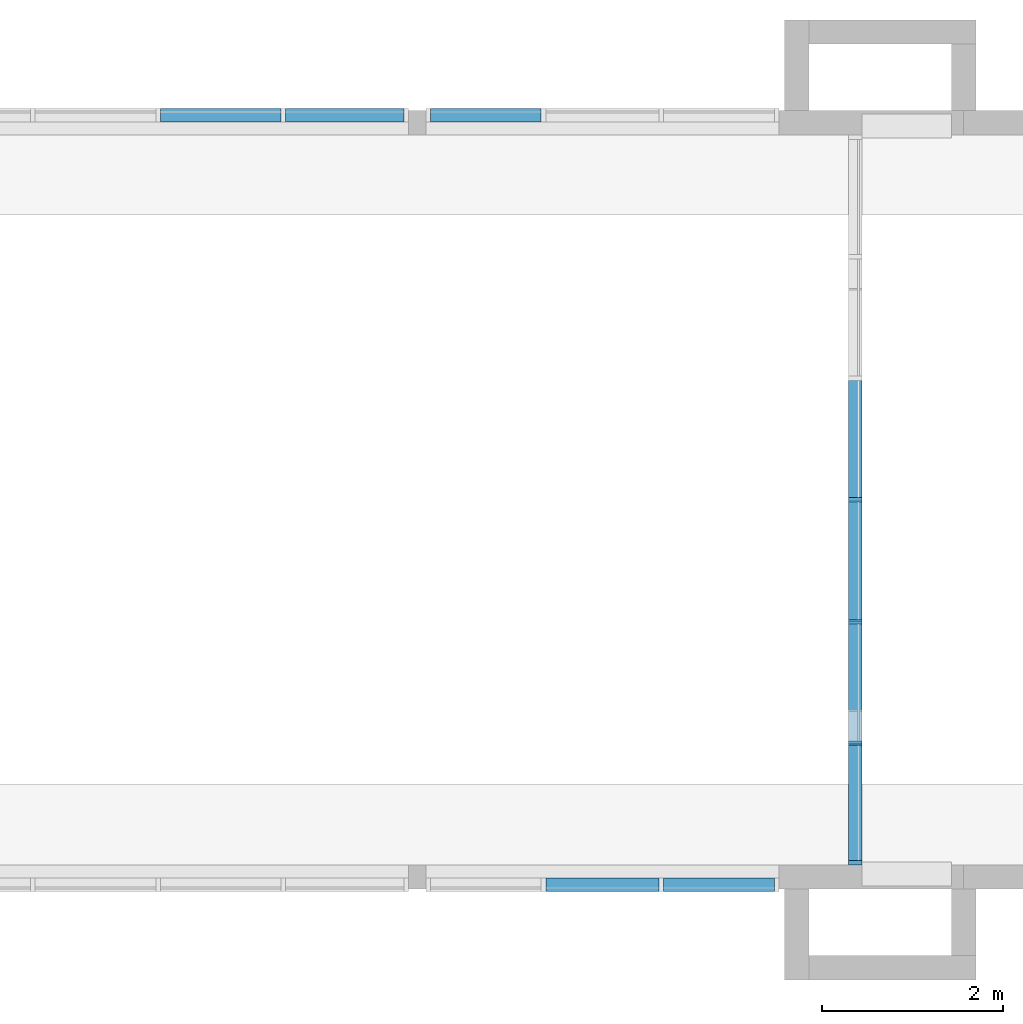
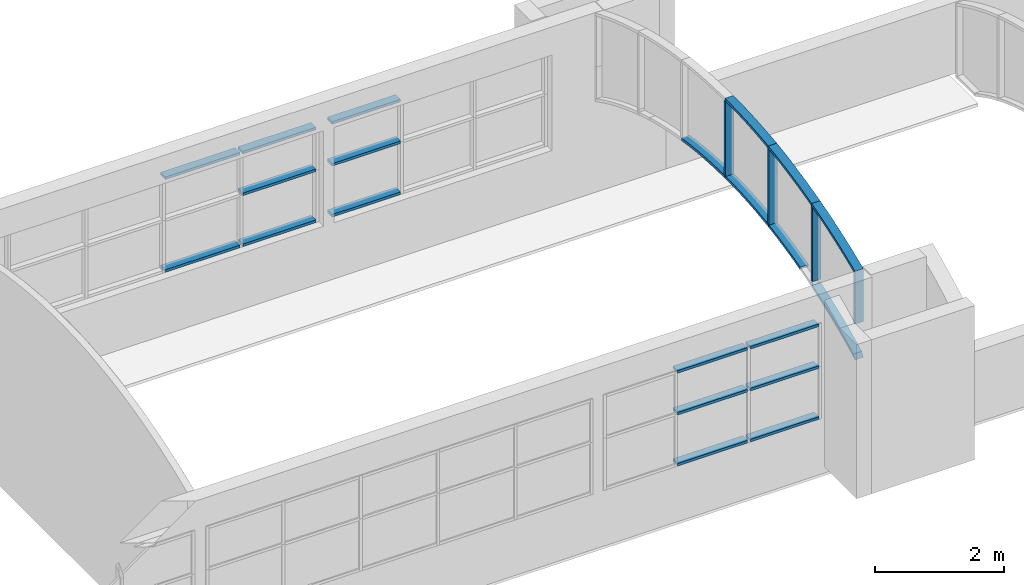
# One storey, part 3 of 14: 25 members, 4 elements without a shape of their own.
"""IFC2X3 building model written with IfcOpenShell, lengths in metres."""

from ifc_helpers import new_model, entity, si_unit, converted_unit, frame, frame_2d, origin, origin_2d_with_axis, place, context, project, spatial, polyline, circle_curve, parameter, trimmed, segment, composite_curve, rectangle, outline, extrude, source, transform, mapped, material, type_object, type_shapes, element, aggregate, save


model = new_model("IFC2X3")

# Units and contexts
model_context = context("Model", 3, precision=1e-09, world=origin())
plan_context = context("Plan", 3, precision=1e-09, world=origin())
ifc_project = project(units=[si_unit("LENGTHUNIT", "METRE"), si_unit("AREAUNIT", "SQUARE_METRE"), si_unit("VOLUMEUNIT", "CUBIC_METRE"), converted_unit("PLANEANGLEUNIT", "DEGREE", entity("IfcRatioMeasure", 0.01745329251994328), si_unit("PLANEANGLEUNIT", "RADIAN"), dimensions=[0, 0, 0, 0, 0, 0, 0]), si_unit("TIMEUNIT", "SECOND")], contexts=[model_context, plan_context])

# Site, building, storey
site_placement = place(None, origin())
site = spatial("IfcSite", under=ifc_project, at=site_placement, Name="Default", CompositionType="ELEMENT")
building_placement = place(site_placement, origin())
building = spatial("IfcBuilding", under=site, at=building_placement, CompositionType="ELEMENT")
storey_placement = place(building_placement, frame((0.0, 0.0, 9.25000000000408)))
storey = spatial("IfcBuildingStorey", under=building, at=storey_placement, Name="Roof - Main", CompositionType="ELEMENT", Elevation=9.25000000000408)

# Curtain wall, members
curtain_wall_1_placement = place(storey_placement, origin())
curtain_wall_1 = element("IfcCurtainWall", 1, at=curtain_wall_1_placement, inside=storey, Name="Curtain Wall:Storefront", ObjectType="Curtain Wall:Storefront")
ifc_material = material(Name="Metal - Aluminium")
member_type_1 = type_object("IfcMemberType", Name="50 x 150mm", PredefinedType="MULLION")
shared_shape_1 = source(origin(), model_context, "Body", "SweptSolid", [
    extrude(rectangle(XDim=0.05, YDim=0.15, at=origin_2d_with_axis()), frame((-0.025, 0.0, -1.330999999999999), z_axis=(0.0, 0.0, 1.0), x_axis=(-1.0, 0.0, 0.0)), (0.0, 0.0, 1.0), 1.330999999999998),
])
type_shapes(member_type_1, [shared_shape_1])
member_1_placement = place(storey_placement, frame((-29.27600000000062, 35.93490399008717, 1.067), z_axis=(-1.0, 0.0, 0.0), x_axis=(0.0, 0.0, -1.0)))
member_1 = element("IfcMember", 2, at=member_1_placement, type_object=member_type_1, material=ifc_material, Name="Rectangular Mullion:50 x 150mm:50 x 150mm", ObjectType="50 x 150mm", context=model_context, shape_type="MappedRepresentation", body=[
    mapped(shared_shape_1, transform((0.0, 0.0, 0.0), scale=1.0)),
])
member_type_2 = type_object("IfcMemberType", Name="50 x 150mm", PredefinedType="MULLION")
type_shapes(member_type_2, [shared_shape_1])
member_2_placement = place(storey_placement, frame((-27.94500000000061, 35.93490399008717, 2.867), z_axis=(1.0, 0.0, 0.0), x_axis=(0.0, 0.0, 1.0)))
member_2 = element("IfcMember", 3, at=member_2_placement, type_object=member_type_2, material=ifc_material, Name="Rectangular Mullion:50 x 150mm:50 x 150mm", ObjectType="50 x 150mm", context=model_context, shape_type="MappedRepresentation", body=[
    mapped(shared_shape_1, transform((0.0, 0.0, 0.0), scale=1.0)),
])

# Curtain wall, member
curtain_wall_2_placement = place(storey_placement, origin())
curtain_wall_2 = element("IfcCurtainWall", 4, at=curtain_wall_2_placement, inside=storey, Name="Curtain Wall:Storefront", ObjectType="Curtain Wall:Storefront")
member_type_3 = type_object("IfcMemberType", Name="50 x 150mm", PredefinedType="MULLION")
shared_shape_2 = source(origin(), model_context, "Body", "SweptSolid", [
    extrude(rectangle(XDim=0.05, YDim=0.15, at=origin_2d_with_axis()), frame((0.0, 0.0, -1.221666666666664), z_axis=(0.0, 0.0, 1.0), x_axis=(-1.0, 0.0, 0.0)), (0.0, 0.0, 1.0), 1.221666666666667),
])
type_shapes(member_type_3, [shared_shape_2])
member_3_placement = place(storey_placement, frame((-22.51, 27.45559600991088, 2.053894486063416), z_axis=(1.0, 0.0, 0.0), x_axis=(0.0, 0.0, 1.0)))
member_3 = element("IfcMember", 5, at=member_3_placement, type_object=member_type_3, material=ifc_material, Name="Rectangular Mullion:50 x 150mm:50 x 150mm", ObjectType="50 x 150mm", context=model_context, shape_type="MappedRepresentation", body=[
    mapped(shared_shape_2, transform((0.0, 0.0, 0.0), scale=1.0)),
])

curtain_wall_3_placement = place(storey_placement, origin())
curtain_wall_3 = element("IfcCurtainWall", 6, at=curtain_wall_3_placement, inside=storey, Name="Curtain Wall:Storefront", ObjectType="Curtain Wall:Storefront")
member_type_4 = type_object("IfcMemberType", Name="50 x 150mm", PredefinedType="MULLION")
type_shapes(member_type_4, [shared_shape_2])
member_4_placement = place(storey_placement, frame((-25.07833333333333, 35.93490399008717, 2.053894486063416), z_axis=(1.0, 0.0, 0.0), x_axis=(0.0, 0.0, 1.0)))
member_4 = element("IfcMember", 7, at=member_4_placement, type_object=member_type_4, material=ifc_material, Name="Rectangular Mullion:50 x 150mm:50 x 150mm", ObjectType="50 x 150mm", context=model_context, shape_type="MappedRepresentation", body=[
    mapped(shared_shape_2, transform((0.0, 0.0, 0.0), scale=1.0)),
])

# Member
member_type_5 = type_object("IfcMemberType", Name="50 x 150mm", PredefinedType="MULLION")
shared_shape_3 = source(origin(), model_context, "Body", "SweptSolid", [
    extrude(rectangle(XDim=0.05, YDim=0.15, at=origin_2d_with_axis()), frame((-0.025, 0.0, -1.221666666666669), z_axis=(0.0, 0.0, 1.0), x_axis=(-1.0, 0.0, 0.0)), (0.0, 0.0, 1.0), 1.221666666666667),
])
type_shapes(member_type_5, [shared_shape_3])
member_5_placement = place(storey_placement, frame((-23.73166666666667, 27.45559600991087, 1.067), z_axis=(-1.0, 0.0, 0.0), x_axis=(0.0, 0.0, -1.0)))
member_5 = element("IfcMember", 8, at=member_5_placement, type_object=member_type_5, material=ifc_material, Name="Rectangular Mullion:50 x 150mm:50 x 150mm", ObjectType="50 x 150mm", context=model_context, shape_type="MappedRepresentation", body=[
    mapped(shared_shape_3, transform((0.0, 0.0, 0.0), scale=1.0)),
])

member_type_6 = type_object("IfcMemberType", Name="50 x 150mm", PredefinedType="MULLION")
type_shapes(member_type_6, [shared_shape_3])
member_6_placement = place(storey_placement, frame((-26.29999999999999, 35.93490399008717, 1.067), z_axis=(-1.0, 0.0, 0.0), x_axis=(0.0, 0.0, -1.0)))
member_6 = element("IfcMember", 9, at=member_6_placement, type_object=member_type_6, material=ifc_material, Name="Rectangular Mullion:50 x 150mm:50 x 150mm", ObjectType="50 x 150mm", context=model_context, shape_type="MappedRepresentation", body=[
    mapped(shared_shape_3, transform((0.0, 0.0, 0.0), scale=1.0)),
])

member_type_7 = type_object("IfcMemberType", Name="50 x 150mm", PredefinedType="MULLION")
shared_shape_4 = source(origin(), model_context, "Body", "SweptSolid", [
    extrude(rectangle(XDim=0.05, YDim=0.15, at=origin_2d_with_axis()), frame((-0.025, 0.0, -1.221666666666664), z_axis=(0.0, 0.0, 1.0), x_axis=(-1.0, 0.0, 0.0)), (0.0, 0.0, 1.0), 1.221666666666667),
])
type_shapes(member_type_7, [shared_shape_4])
member_7_placement = place(storey_placement, frame((-25.07833333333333, 35.93490399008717, 2.867), z_axis=(1.0, 0.0, 0.0), x_axis=(0.0, 0.0, 1.0)))
member_7 = element("IfcMember", 10, at=member_7_placement, type_object=member_type_7, material=ifc_material, Name="Rectangular Mullion:50 x 150mm:50 x 150mm", ObjectType="50 x 150mm", context=model_context, shape_type="MappedRepresentation", body=[
    mapped(shared_shape_4, transform((0.0, 0.0, 0.0), scale=1.0)),
])

aggregate(curtain_wall_3, [member_7, member_4, member_6])

member_type_8 = type_object("IfcMemberType", Name="50 x 150mm", PredefinedType="MULLION")
type_shapes(member_type_8, [shared_shape_4])
member_8_placement = place(storey_placement, frame((-22.51, 27.45559600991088, 2.867), z_axis=(1.0, 0.0, 0.0), x_axis=(0.0, 0.0, 1.0)))
member_8 = element("IfcMember", 11, at=member_8_placement, type_object=member_type_8, material=ifc_material, Name="Rectangular Mullion:50 x 150mm:50 x 150mm", ObjectType="50 x 150mm", context=model_context, shape_type="MappedRepresentation", body=[
    mapped(shared_shape_4, transform((0.0, 0.0, 0.0), scale=1.0)),
])

member_type_9 = type_object("IfcMemberType", Name="50 x 150mm", PredefinedType="MULLION")
shared_shape_5 = source(origin(), model_context, "Body", "SweptSolid", [
    extrude(rectangle(XDim=0.05, YDim=0.15, at=origin_2d_with_axis()), frame((-0.025, 0.0, -1.305999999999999), z_axis=(0.0, 0.0, 1.0), x_axis=(-1.0, 0.0, 0.0)), (0.0, 0.0, 1.0), 1.305999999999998),
])
type_shapes(member_type_9, [shared_shape_5])
member_9_placement = place(storey_placement, frame((-27.89500000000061, 35.93490399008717, 1.067), z_axis=(-1.0, 0.0, 0.0), x_axis=(0.0, 0.0, -1.0)))
member_9 = element("IfcMember", 12, at=member_9_placement, type_object=member_type_9, material=ifc_material, Name="Rectangular Mullion:50 x 150mm:50 x 150mm", ObjectType="50 x 150mm", context=model_context, shape_type="MappedRepresentation", body=[
    mapped(shared_shape_5, transform((0.0, 0.0, 0.0), scale=1.0)),
])

member_type_10 = type_object("IfcMemberType", Name="50 x 150mm", PredefinedType="MULLION")
shared_shape_6 = source(origin(), model_context, "Body", "SweptSolid", [
    extrude(rectangle(XDim=0.05, YDim=0.15, at=origin_2d_with_axis()), frame((-0.025, 0.0, -1.306000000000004), z_axis=(0.0, 0.0, 1.0), x_axis=(-1.0, 0.0, 0.0)), (0.0, 0.0, 1.0), 1.306000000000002),
])
type_shapes(member_type_10, [shared_shape_6])
member_10_placement = place(storey_placement, frame((-26.58900000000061, 35.93490399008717, 2.867), z_axis=(1.0, 0.0, 0.0), x_axis=(0.0, 0.0, 1.0)))
member_10 = element("IfcMember", 13, at=member_10_placement, type_object=member_type_10, material=ifc_material, Name="Rectangular Mullion:50 x 150mm:50 x 150mm", ObjectType="50 x 150mm", context=model_context, shape_type="MappedRepresentation", body=[
    mapped(shared_shape_6, transform((0.0, 0.0, 0.0), scale=1.0)),
])

member_type_11 = type_object("IfcMemberType", Name="50 x 150mm", PredefinedType="MULLION")
shared_shape_7 = source(origin(), model_context, "Body", "SweptSolid", [
    extrude(rectangle(XDim=0.05, YDim=0.15, at=origin_2d_with_axis()), frame((-0.025, 0.0, -1.246666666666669), z_axis=(0.0, 0.0, 1.0), x_axis=(-1.0, 0.0, 0.0)), (0.0, 0.0, 1.0), 1.246666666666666),
])
type_shapes(member_type_11, [shared_shape_7])
member_11_placement = place(storey_placement, frame((-25.02833333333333, 27.45559600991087, 1.067), z_axis=(-1.0, 0.0, 0.0), x_axis=(0.0, 0.0, -1.0)))
member_11 = element("IfcMember", 14, at=member_11_placement, type_object=member_type_11, material=ifc_material, Name="Rectangular Mullion:50 x 150mm:50 x 150mm", ObjectType="50 x 150mm", context=model_context, shape_type="MappedRepresentation", body=[
    mapped(shared_shape_7, transform((0.0, 0.0, 0.0), scale=1.0)),
])

member_type_12 = type_object("IfcMemberType", Name="50 x 150mm", PredefinedType="MULLION")
shared_shape_8 = source(origin(), model_context, "Body", "SweptSolid", [
    extrude(rectangle(XDim=0.05, YDim=0.15, at=origin_2d_with_axis()), frame((0.0, 0.0, -1.305999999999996), z_axis=(0.0, 0.0, 1.0), x_axis=(-1.0, 0.0, 0.0)), (0.0, 0.0, 1.0), 1.305999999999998),
])
type_shapes(member_type_12, [shared_shape_8])
member_12_placement = place(storey_placement, frame((-26.58900000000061, 35.93490399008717, 2.053894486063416), z_axis=(1.0, 0.0, 0.0), x_axis=(0.0, 0.0, 1.0)))
member_12 = element("IfcMember", 15, at=member_12_placement, type_object=member_type_12, material=ifc_material, Name="Rectangular Mullion:50 x 150mm:50 x 150mm", ObjectType="50 x 150mm", context=model_context, shape_type="MappedRepresentation", body=[
    mapped(shared_shape_8, transform((0.0, 0.0, 0.0), scale=1.0)),
])

aggregate(curtain_wall_1, [member_10, member_9, member_12, member_1, member_2])

member_type_13 = type_object("IfcMemberType", Name="50 x 150mm", PredefinedType="MULLION")
shared_shape_9 = source(origin(), model_context, "Body", "SweptSolid", [
    extrude(rectangle(XDim=0.05, YDim=0.15, at=origin_2d_with_axis()), frame((0.0, 0.0, -1.246666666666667), z_axis=(0.0, 0.0, 1.0), x_axis=(-1.0, 0.0, 0.0)), (0.0, 0.0, 1.0), 1.246666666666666),
])
type_shapes(member_type_13, [shared_shape_9])
member_13_placement = place(storey_placement, frame((-23.78166666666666, 27.45559600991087, 2.053894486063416), z_axis=(1.0, 0.0, 0.0), x_axis=(0.0, 0.0, 1.0)))
member_13 = element("IfcMember", 16, at=member_13_placement, type_object=member_type_13, material=ifc_material, Name="Rectangular Mullion:50 x 150mm:50 x 150mm", ObjectType="50 x 150mm", context=model_context, shape_type="MappedRepresentation", body=[
    mapped(shared_shape_9, transform((0.0, 0.0, 0.0), scale=1.0)),
])

member_type_14 = type_object("IfcMemberType", Name="50 x 150mm", PredefinedType="MULLION")
shared_shape_10 = source(origin(), model_context, "Body", "SweptSolid", [
    extrude(rectangle(XDim=0.05, YDim=0.15, at=origin_2d_with_axis()), frame((-0.025, 0.0, -1.246666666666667), z_axis=(0.0, 0.0, 1.0), x_axis=(-1.0, 0.0, 0.0)), (0.0, 0.0, 1.0), 1.246666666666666),
])
type_shapes(member_type_14, [shared_shape_10])
member_14_placement = place(storey_placement, frame((-23.78166666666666, 27.45559600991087, 2.867), z_axis=(1.0, 0.0, 0.0), x_axis=(0.0, 0.0, 1.0)))
member_14 = element("IfcMember", 17, at=member_14_placement, type_object=member_type_14, material=ifc_material, Name="Rectangular Mullion:50 x 150mm:50 x 150mm", ObjectType="50 x 150mm", context=model_context, shape_type="MappedRepresentation", body=[
    mapped(shared_shape_10, transform((0.0, 0.0, 0.0), scale=1.0)),
])

aggregate(curtain_wall_2, [member_3, member_5, member_13, member_14, member_8, member_11])

# Curtain wall, members
curtain_wall_4_placement = place(storey_placement, origin())
curtain_wall_4 = element("IfcCurtainWall", 18, at=curtain_wall_4_placement, inside=storey, Name="Curtain Wall:Storefront", ObjectType="Curtain Wall:Storefront")
member_type_15 = type_object("IfcMemberType", Name="50 x 150mm", PredefinedType="MULLION")
shared_shape_11 = source(origin(), model_context, "Body", "SweptSolid", [
    extrude(outline(composite_curve([segment(polyline([(-0.07082729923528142, -0.6806878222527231), (-0.02082729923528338, -0.680687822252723)]), True, "CONTINUOUS"), segment(trimmed(circle_curve(frame_2d((10.11047823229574, -0.6806878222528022), x_axis=(-0.9909755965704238, 0.1340424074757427)), 10.13130553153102), [parameter(3.562221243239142e-13)], [parameter(7.703250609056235)], True, "PARAMETER"), False, "CONTINUOUS"), segment(polyline([(0.07060168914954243, 0.6773367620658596), (0.02105290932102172, 0.6840388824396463)]), True, "CONTINUOUS"), segment(trimmed(circle_curve(frame_2d((10.11047823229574, -0.6806878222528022), x_axis=(-0.9909755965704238, 0.1340424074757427)), 10.18130553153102), [parameter(3.562221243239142e-13)], [parameter(7.703250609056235)], True, "PARAMETER"), True, "CONTINUOUS")], self_intersect=False)), frame((-0.07082729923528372, -0.07499999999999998, -0.6806878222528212), z_axis=(0.0, 1.0, 0.0), x_axis=(-0.9909755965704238, 0.0, 0.134042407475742)), (0.0, 0.0, 1.0), 0.1499999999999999),
])
type_shapes(member_type_15, [shared_shape_11])
member_15_placement = place(storey_placement, frame((-21.61957995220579, 29.01375657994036, 3.865529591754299), z_axis=(0.0, -0.9646981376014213, -0.2633581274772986), x_axis=(0.0, -0.2633581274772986, 0.9646981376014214)))
member_15 = element("IfcMember", 19, at=member_15_placement, type_object=member_type_15, material=ifc_material, Name="Rectangular Mullion:50 x 150mm:50 x 150mm", ObjectType="50 x 150mm", context=model_context, shape_type="MappedRepresentation", body=[
    mapped(shared_shape_11, transform((0.0, 0.0, 0.0), scale=1.0)),
])
member_type_16 = type_object("IfcMemberType", Name="50 x 150mm", PredefinedType="MULLION")
shared_shape_12 = source(origin(), model_context, "Body", "SweptSolid", [
    extrude(outline(composite_curve([segment(polyline([(-0.9439190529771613, -0.03037522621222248), (0.4628758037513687, -0.03037522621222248)]), True, "CONTINUOUS"), segment(trimmed(circle_curve(frame_2d((-9.300275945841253, 2.675954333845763), x_axis=(0.9186616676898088, -0.3950452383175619)), 10.13130553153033), [parameter(7.775509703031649)], [parameter(7.999380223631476)], True, "PARAMETER"), True, "CONTINUOUS"), segment(polyline([(0.4733756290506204, 0.007792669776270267), (0.474988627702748, 0.01370823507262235)]), True, "CONTINUOUS"), segment(polyline([(0.474988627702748, 0.01370823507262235), (0.4765980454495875, 0.01962477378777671)]), True, "CONTINUOUS"), segment(polyline([(0.4765980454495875, 0.01962477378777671), (-0.9439190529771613, 0.01962477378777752)]), True, "CONTINUOUS"), segment(polyline([(-0.9439190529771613, 0.01962477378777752), (-0.9439190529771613, -0.03037522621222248)]), True, "CONTINUOUS")], self_intersect=False)), frame((-0.005375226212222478, -0.07499999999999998, -0.9439190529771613), z_axis=(0.0, 1.0, 0.0), x_axis=(0.0, 0.0, -1.0)), (0.0, 0.0, 1.0), 0.15),
])
type_shapes(member_type_16, [shared_shape_12])
member_16_placement = place(storey_placement, frame((-21.61957995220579, 29.01375657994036, 2.4), z_axis=(0.0, 0.0, -1.0), x_axis=(0.0, -1.0, 0.0)))
member_16 = element("IfcMember", 20, at=member_16_placement, type_object=member_type_16, material=ifc_material, Name="Rectangular Mullion:50 x 150mm:50 x 150mm", ObjectType="50 x 150mm", context=model_context, shape_type="MappedRepresentation", body=[
    mapped(shared_shape_12, transform((0.0, 0.0, 0.0), scale=1.0)),
])
member_type_17 = type_object("IfcMemberType", Name="50 x 150mm", PredefinedType="MULLION")
shared_shape_13 = source(origin(), model_context, "Body", "SweptSolid", [
    extrude(outline(composite_curve([segment(polyline([(0.003756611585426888, -0.4991237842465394), (0.05375661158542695, -0.4991237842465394)]), True, "CONTINUOUS"), segment(trimmed(circle_curve(frame_2d((-8.663209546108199, -0.4991237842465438), x_axis=(0.9933831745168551, 0.1148471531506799)), 8.716966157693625), [parameter(353.4051908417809)], [parameter(359.9999999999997)], True, "PARAMETER"), True, "CONTINUOUS"), segment(polyline([(-0.003922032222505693, 0.5019949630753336), (-0.05359119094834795, 0.4962526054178)]), True, "CONTINUOUS"), segment(trimmed(circle_curve(frame_2d((-8.663209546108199, -0.4991237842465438), x_axis=(0.9933831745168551, 0.1148471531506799)), 8.666966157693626), [parameter(353.4051908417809)], [parameter(359.9999999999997)], True, "PARAMETER"), False, "CONTINUOUS")], self_intersect=False)), frame((0.003756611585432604, -0.07500000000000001, -0.4991237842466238), z_axis=(0.0, 1.0, 0.0), x_axis=(-0.9933831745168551, 0.0, -0.1148471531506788)), (0.0, 0.0, 1.0), 0.15),
])
type_shapes(member_type_17, [shared_shape_13])
member_17_placement = place(storey_placement, frame((-21.61957995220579, 30.35450328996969, 2.610619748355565), z_axis=(0.0, 0.9879650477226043, 0.1546772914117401), x_axis=(0.0, 0.1546772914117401, -0.9879650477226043)))
member_17 = element("IfcMember", 21, at=member_17_placement, type_object=member_type_17, material=ifc_material, Name="Rectangular Mullion:50 x 150mm:50 x 150mm", ObjectType="50 x 150mm", context=model_context, shape_type="MappedRepresentation", body=[
    mapped(shared_shape_13, transform((0.0, 0.0, 0.0), scale=1.0)),
])
member_type_18 = type_object("IfcMemberType", Name="50 x 150mm", PredefinedType="MULLION")
shared_shape_14 = source(origin(), model_context, "Body", "SweptSolid", [
    extrude(outline(composite_curve([segment(polyline([(-0.06922385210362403, -0.6687265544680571), (-0.01922385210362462, -0.6687265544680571)]), True, "CONTINUOUS"), segment(trimmed(circle_curve(frame_2d((10.11208167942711, -0.668726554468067), x_axis=(-0.9912913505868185, 0.1316869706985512)), 10.13130553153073), [parameter(3.562221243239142e-13)], [parameter(7.567086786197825)], True, "PARAMETER"), False, "CONTINUOUS"), segment(polyline([(0.06900613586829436, 0.6654343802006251), (0.01944156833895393, 0.6720187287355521)]), True, "CONTINUOUS"), segment(trimmed(circle_curve(frame_2d((10.11208167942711, -0.668726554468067), x_axis=(-0.9912913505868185, 0.1316869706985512)), 10.18130553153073), [parameter(3.562221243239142e-13)], [parameter(7.567086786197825)], True, "PARAMETER"), True, "CONTINUOUS")], self_intersect=False)), frame((-0.06922385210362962, -0.075, -0.6687265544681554), z_axis=(0.0, 1.0, 0.0), x_axis=(-0.9912913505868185, 0.0, 0.1316869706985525)), (0.0, 0.0, 1.0), 0.1499999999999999),
])
type_shapes(member_type_18, [shared_shape_14])
member_18_placement = place(storey_placement, frame((-21.61957995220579, 30.35450328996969, 4.136304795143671), z_axis=(0.0, -0.9912934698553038, -0.1316710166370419), x_axis=(0.0, -0.1316710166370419, 0.9912934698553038)))
member_18 = element("IfcMember", 22, at=member_18_placement, type_object=member_type_18, material=ifc_material, Name="Rectangular Mullion:50 x 150mm:50 x 150mm", ObjectType="50 x 150mm", context=model_context, shape_type="MappedRepresentation", body=[
    mapped(shared_shape_14, transform((0.0, 0.0, 0.0), scale=1.0)),
])
member_type_19 = type_object("IfcMemberType", Name="50 x 150mm", PredefinedType="MULLION")
shared_shape_15 = source(origin(), model_context, "Body", "SweptSolid", [
    extrude(outline(composite_curve([segment(polyline([(-0.7050243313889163, -0.02500002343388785), (0.7050029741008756, -0.02500002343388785)]), True, "CONTINUOUS"), segment(trimmed(circle_curve(frame_2d((-9.426272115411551, -0.0001638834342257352), x_axis=(0.9912934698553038, -0.1316710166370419)), 10.13130553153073), [parameter(7.425708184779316)], [parameter(7.567086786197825)], True, "PARAMETER"), True, "CONTINUOUS"), segment(trimmed(circle_curve(frame_2d((-9.426272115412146, -0.000163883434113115), x_axis=(1.0, 1.609420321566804e-05)), 10.13130553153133), [parameter(0.0)], [parameter(0.1413877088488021)], True, "PARAMETER"), True, "CONTINUOUS"), segment(polyline([(0.7050021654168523, 0.02499997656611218), (-0.7050252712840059, 0.02499997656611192)]), True, "CONTINUOUS"), segment(trimmed(circle_curve(frame_2d((-9.421955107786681, -0.0001638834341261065), x_axis=(0.9879591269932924, 0.1547151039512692)), 8.716966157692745), [parameter(351.1008096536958)], [parameter(351.2651262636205)], True, "PARAMETER"), False, "CONTINUOUS"), segment(trimmed(circle_curve(frame_2d((-9.42195510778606, -0.000163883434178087), x_axis=(1.0, 1.890626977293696e-05)), 8.716966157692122), [parameter(359.8356709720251)], [parameter(0.0)], True, "PARAMETER"), False, "CONTINUOUS")], self_intersect=False)), frame((-2.343388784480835e-08, -0.07500000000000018, -0.7549889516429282), z_axis=(0.0, 1.0, 0.0), x_axis=(0.0, 0.0, -1.0)), (0.0, 0.0, 1.0), 0.15),
])
type_shapes(member_type_19, [shared_shape_15])
member_19_placement = place(storey_placement, frame((-21.61957995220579, 31.69524999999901, 2.714926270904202), z_axis=(0.0, 0.0, -1.0), x_axis=(0.0, -1.0, 0.0)))
member_19 = element("IfcMember", 23, at=member_19_placement, type_object=member_type_19, material=ifc_material, Name="Rectangular Mullion:50 x 150mm:50 x 150mm", ObjectType="50 x 150mm", context=model_context, shape_type="MappedRepresentation", body=[
    mapped(shared_shape_15, transform((0.0, 0.0, 0.0), scale=1.0)),
])
member_type_20 = type_object("IfcMemberType", Name="50 x 150mm", PredefinedType="MULLION")
shared_shape_16 = source(origin(), model_context, "Body", "SweptSolid", [
    extrude(outline(polyline([(-0.4901776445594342, -0.025), (0.5066405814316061, -0.025), (0.4737147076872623, 0.025), (-0.4901776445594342, 0.025), (-0.4901776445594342, -0.025)])), frame((-0.025, -0.07499999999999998, -0.4901776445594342), z_axis=(0.0, 1.0, 0.0), x_axis=(0.0, 0.0, -1.0)), (0.0, 0.0, 1.0), 0.15),
])
type_shapes(member_type_20, [shared_shape_16])
member_20_placement = place(storey_placement, frame((-21.6195799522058, 27.67300986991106, 2.4), z_axis=(0.0, 0.0, -1.0), x_axis=(0.0, -1.0, 0.0)))
member_20 = element("IfcMember", 24, at=member_20_placement, type_object=member_type_20, material=ifc_material, Name="Rectangular Mullion:50 x 150mm:50 x 150mm", ObjectType="50 x 150mm", context=model_context, shape_type="MappedRepresentation", body=[
    mapped(shared_shape_16, transform((0.0, 0.0, 0.0), scale=1.0)),
])
member_type_21 = type_object("IfcMemberType", Name="50 x 150mm", PredefinedType="MULLION")
shared_shape_17 = source(origin(), model_context, "Body", "SweptSolid", [
    extrude(outline(composite_curve([segment(polyline([(-0.7161302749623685, -0.02478416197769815), (0.7090670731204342, -0.02478416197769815)]), True, "CONTINUOUS"), segment(trimmed(circle_curve(frame_2d((-9.329784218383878, 1.340798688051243), x_axis=(0.9646981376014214, -0.2633581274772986)), 10.13130553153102), [parameter(7.523028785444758)], [parameter(7.703250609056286)], True, "PARAMETER"), True, "CONTINUOUS"), segment(polyline([(0.7133127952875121, 0.006799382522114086), (0.7145315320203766, 0.01600705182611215)]), True, "CONTINUOUS"), segment(polyline([(0.7145315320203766, 0.01600705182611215), (0.7157418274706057, 0.02521583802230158)]), True, "CONTINUOUS"), segment(polyline([(0.7157418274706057, 0.02521583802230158), (-0.7083481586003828, 0.02521583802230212)]), True, "CONTINUOUS"), segment(trimmed(circle_curve(frame_2d((-9.325467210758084, 1.340798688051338), x_axis=(1.0, 1.890626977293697e-05)), 8.716966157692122), [parameter(351.1008360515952)], [parameter(351.3185492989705)], True, "PARAMETER"), False, "CONTINUOUS"), segment(polyline([(-0.7134093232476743, -0.007518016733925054), (-0.7147654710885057, -0.0161517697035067)]), True, "CONTINUOUS"), segment(polyline([(-0.7147654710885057, -0.0161517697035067), (-0.7161302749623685, -0.02478416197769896)]), True, "CONTINUOUS")], self_intersect=False)), frame((0.0002158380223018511, -0.07499999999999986, -0.7628075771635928), z_axis=(0.0, 1.0, 0.0), x_axis=(0.0, 0.0, -1.0)), (0.0, 0.0, 1.0), 0.15),
])
type_shapes(member_type_21, [shared_shape_17])
member_21_placement = place(storey_placement, frame((-21.61957995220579, 30.35450328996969, 2.610619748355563), z_axis=(0.0, 0.0, -1.0), x_axis=(0.0, -1.0, 0.0)))
member_21 = element("IfcMember", 25, at=member_21_placement, type_object=member_type_21, material=ifc_material, Name="Rectangular Mullion:50 x 150mm:50 x 150mm", ObjectType="50 x 150mm", context=model_context, shape_type="MappedRepresentation", body=[
    mapped(shared_shape_17, transform((0.0, 0.0, 0.0), scale=1.0)),
])
member_type_22 = type_object("IfcMemberType", Name="50 x 150mm", PredefinedType="MULLION")
shared_shape_18 = source(origin(), model_context, "Body", "SweptSolid", [
    extrude(outline(composite_curve([segment(polyline([(-0.6206763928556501, -0.4179739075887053), (-0.524831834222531, -0.4179739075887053)]), True, "CONTINUOUS"), segment(trimmed(circle_curve(frame_2d((-5.107161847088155, 6.997398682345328), x_axis=(0.6534673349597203, -0.7569547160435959)), 8.716966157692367), [parameter(350.9104579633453)], [parameter(359.9999999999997)], True, "PARAMETER"), True, "CONTINUOUS"), segment(polyline([(0.589090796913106, 0.3990500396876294), (0.5564174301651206, 0.436897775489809)]), True, "CONTINUOUS"), segment(trimmed(circle_curve(frame_2d((-5.107161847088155, 6.997398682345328), x_axis=(0.6534673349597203, -0.7569547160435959)), 8.666966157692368), [parameter(350.3714477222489)], [parameter(359.9999999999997)], True, "PARAMETER"), False, "CONTINUOUS")], self_intersect=False)), frame((0.0328887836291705, -0.07499999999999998, -0.7066812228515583), z_axis=(0.0, 1.0, 0.0), x_axis=(-0.6534673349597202, 0.0, 0.7569547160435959)), (0.0, 0.0, 1.0), 0.15),
])
type_shapes(member_type_22, [shared_shape_18])
member_22_placement = place(storey_placement, frame((-21.61957995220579, 29.01375657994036, 2.28973020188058), z_axis=(0.0, 0.9509406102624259, 0.3093734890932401), x_axis=(0.0, 0.3093734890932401, -0.9509406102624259)))
member_22 = element("IfcMember", 26, at=member_22_placement, type_object=member_type_22, material=ifc_material, Name="Rectangular Mullion:50 x 150mm:50 x 150mm", ObjectType="50 x 150mm", context=model_context, shape_type="MappedRepresentation", body=[
    mapped(shared_shape_18, transform((0.0, 0.0, 0.0), scale=1.0)),
])
member_type_23 = type_object("IfcMemberType", Name="50 x 150mm", PredefinedType="MULLION")
shared_shape_19 = source(origin(), model_context, "Body", "SweptSolid", [
    extrude(outline(composite_curve([segment(polyline([(-0.0732791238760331, -0.698525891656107), (-0.02327912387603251, -0.6985258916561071)]), True, "CONTINUOUS"), segment(trimmed(circle_curve(frame_2d((10.1080264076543, -0.6985258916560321), x_axis=(-0.9902695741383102, 0.1391623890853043)), 10.13130553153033), [parameter(0.1864063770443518)], [parameter(7.999380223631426)], True, "PARAMETER"), False, "CONTINUOUS"), segment(polyline([(0.07076893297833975, 0.6787228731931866), (0.02578931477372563, 0.7183289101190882)]), True, "CONTINUOUS"), segment(trimmed(circle_curve(frame_2d((10.1080264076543, -0.6985258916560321), x_axis=(-0.9902695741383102, 0.1391623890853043)), 10.18130553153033), [parameter(3.562221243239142e-13)], [parameter(7.999380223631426)], True, "PARAMETER"), True, "CONTINUOUS")], self_intersect=False)), frame((-0.07442599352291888, -0.075, -0.7149281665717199), z_axis=(0.0, 1.0, 0.0), x_axis=(-0.9902695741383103, 0.0, 0.1391623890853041)), (0.0, 0.0, 1.0), 0.15),
])
type_shapes(member_type_23, [shared_shape_19])
member_23_placement = place(storey_placement, frame((-21.6195799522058, 27.67300986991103, 3.396818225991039), z_axis=(0.0, -0.9186616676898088, -0.3950452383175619), x_axis=(0.0, -0.3950452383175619, 0.9186616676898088)))
member_23 = element("IfcMember", 27, at=member_23_placement, type_object=member_type_23, material=ifc_material, Name="Rectangular Mullion:50 x 150mm:50 x 150mm", ObjectType="50 x 150mm", context=model_context, shape_type="MappedRepresentation", body=[
    mapped(shared_shape_19, transform((0.0, 0.0, 0.0), scale=1.0)),
])
member_type_24 = type_object("IfcMemberType", Name="50 x 150mm", PredefinedType="MULLION")
shared_shape_20 = source(origin(), model_context, "Body", "SweptSolid", [
    extrude(outline(composite_curve([segment(polyline([(0.02731640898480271, -0.672306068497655), (0.07731640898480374, -0.6723060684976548)]), True, "CONTINUOUS"), segment(trimmed(circle_curve(frame_2d((-8.639649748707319, -0.6723060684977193), x_axis=(0.9879621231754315, 0.1546959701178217)), 8.716966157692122), [parameter(351.1008360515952)], [parameter(359.9999999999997)], True, "PARAMETER"), True, "CONTINUOUS"), segment(polyline([(-0.02761735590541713, 0.6761734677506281), (-0.07701546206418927, 0.6684386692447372)]), True, "CONTINUOUS"), segment(trimmed(circle_curve(frame_2d((-8.639649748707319, -0.6723060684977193), x_axis=(0.9879621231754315, 0.1546959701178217)), 8.666966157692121), [parameter(351.1008360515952)], [parameter(359.9999999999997)], True, "PARAMETER"), False, "CONTINUOUS")], self_intersect=False)), frame((0.02731640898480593, -0.07499999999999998, -0.6723060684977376), z_axis=(0.0, 1.0, 0.0), x_axis=(-0.9879621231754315, 0.0, -0.15469597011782)), (0.0, 0.0, 1.0), 0.15),
])
type_shapes(member_type_24, [shared_shape_20])
member_24_placement = place(storey_placement, frame((-21.61957995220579, 31.69524999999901, 2.714926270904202), z_axis=(0.0, 1.0, -1.890626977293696e-05), x_axis=(0.0, -1.890626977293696e-05, -1.0)))
member_24 = element("IfcMember", 28, at=member_24_placement, type_object=member_type_24, material=ifc_material, Name="Rectangular Mullion:50 x 150mm:50 x 150mm", ObjectType="50 x 150mm", context=model_context, shape_type="MappedRepresentation", body=[
    mapped(shared_shape_20, transform((0.0, 0.0, 0.0), scale=1.0)),
])
member_type_25 = type_object("IfcMemberType", Name="50 x 150mm", PredefinedType="MULLION")
shared_shape_21 = source(origin(), model_context, "Body", "SweptSolid", [
    extrude(outline(composite_curve([segment(polyline([(0.02731671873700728, -0.6723080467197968), (0.07731671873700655, -0.6723080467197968)]), True, "CONTINUOUS"), segment(trimmed(circle_curve(frame_2d((-8.639649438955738, -0.6723080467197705), x_axis=(0.9879620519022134, 0.1546964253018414)), 8.716966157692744), [parameter(351.1008096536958)], [parameter(359.9999999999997)], True, "PARAMETER"), True, "CONTINUOUS"), segment(polyline([(-0.02761766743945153, 0.6761754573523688), (-0.07701577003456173, 0.6684406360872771)]), True, "CONTINUOUS"), segment(trimmed(circle_curve(frame_2d((-8.639649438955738, -0.6723080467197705), x_axis=(0.9879620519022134, 0.1546964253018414)), 8.666966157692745), [parameter(351.1008096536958)], [parameter(359.9999999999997)], True, "PARAMETER"), False, "CONTINUOUS")], self_intersect=False)), frame((0.02731671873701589, -0.07500000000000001, -0.6723080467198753), z_axis=(0.0, 1.0, 0.0), x_axis=(-0.9879620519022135, 0.0, -0.1546964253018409)), (0.0, 0.0, 1.0), 0.1499999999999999),
])
type_shapes(member_type_25, [shared_shape_21])
member_25_placement = place(storey_placement, frame((-21.61957995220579, 33.03599671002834, 2.61056843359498), z_axis=(0.0, 0.9879591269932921, -0.1547151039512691), x_axis=(0.0, -0.1547151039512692, -0.9879591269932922)))
member_25 = element("IfcMember", 29, at=member_25_placement, type_object=member_type_25, material=ifc_material, Name="Rectangular Mullion:50 x 150mm:50 x 150mm", ObjectType="50 x 150mm", context=model_context, shape_type="MappedRepresentation", body=[
    mapped(shared_shape_21, transform((0.0, 0.0, 0.0), scale=1.0)),
])
aggregate(curtain_wall_4, [member_23, member_25, member_17, member_16, member_19, member_24, member_22, member_21, member_18, member_15, member_20])

save(model, "model.ifc")
